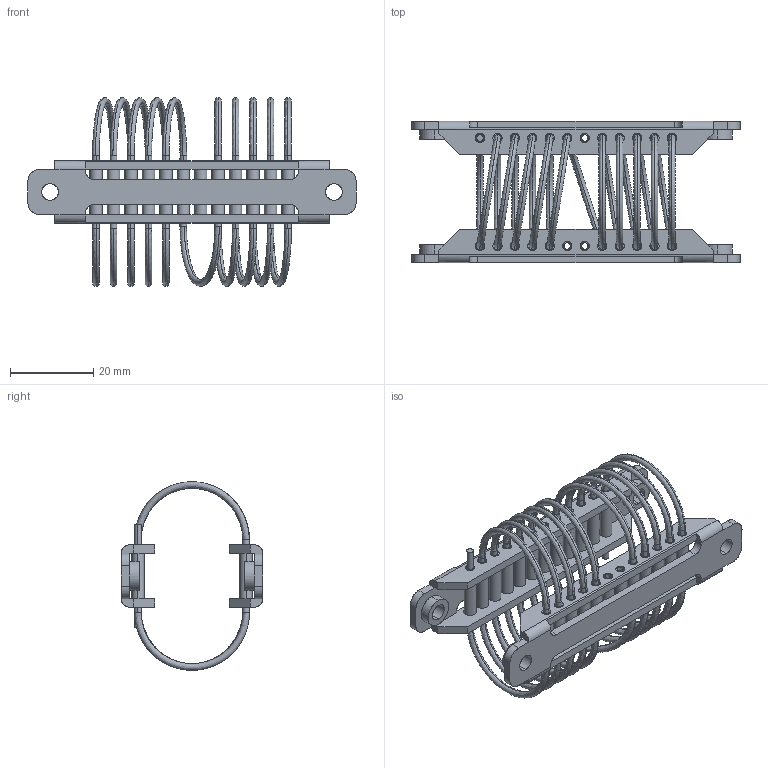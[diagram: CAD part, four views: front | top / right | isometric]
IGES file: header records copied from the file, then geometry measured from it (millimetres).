
Start section: SolidWorks IGES file using analytic representation for surfaces
Bounding box: 79 x 34 x 45.39 mm (x, y, z)
Surface area: 16212.2 mm2 (no closed solid volume)
Topology: 0 solids, 0 shells, 308 faces, 7610 edges, 7610 vertices
Faces by surface type: bspline 158, revolution 150
